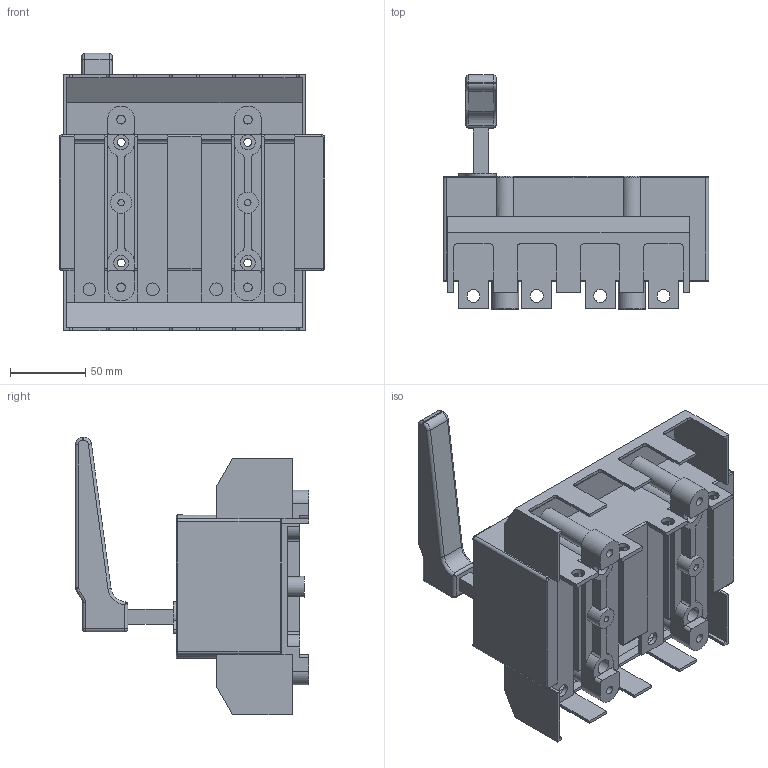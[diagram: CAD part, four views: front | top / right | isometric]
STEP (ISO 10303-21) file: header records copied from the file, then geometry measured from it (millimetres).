
FILE_DESCRIPTION(/* description */ (''),/* implementation_level */ '2;1');
FILE_NAME(/* name */ 'RA160 P3 NA-R z oslona zaciskow.stp',/* time_stamp */ '2021-08-17T13:55:37+02:00',/* author */ (''),/* organization */ (''),/* preprocessor_version */ 'ST-DEVELOPER v18.1',/* originating_system */ 'SIEMENS PLM Software NX 1965',/* authorisation */ '');
FILE_SCHEMA (('AUTOMOTIVE_DESIGN { 1 0 10303 214 3 1 1 1 }'));
Length unit declared in the file: millimetre
Products named in the file (1): RA160 P3 NA-R z oslona zaciskow_stp
Bounding box: 176 x 155 x 183.9 mm (x, y, z)
Volume: 1251613.7 mm3; surface area: 169769.5 mm2
Topology: 1 solids, 1 shells, 362 faces, 1011 edges, 644 vertices
Faces by surface type: plane 186, cylinder 150, torus 15, sphere 6, bspline 5
Full cylindrical faces by diameter (mm): 4.3 x2, 5.3 x4, 5.8 x4, 8.5 x8, 10 x12, 13 x4, 14 x2
Entity records: 11466 total; most frequent: CARTESIAN_POINT 2133, DIRECTION 1975, ORIENTED_EDGE 1898, EDGE_CURVE 949, AXIS2_PLACEMENT_3D 690, VERTEX_POINT 624, LINE 595, VECTOR 595
